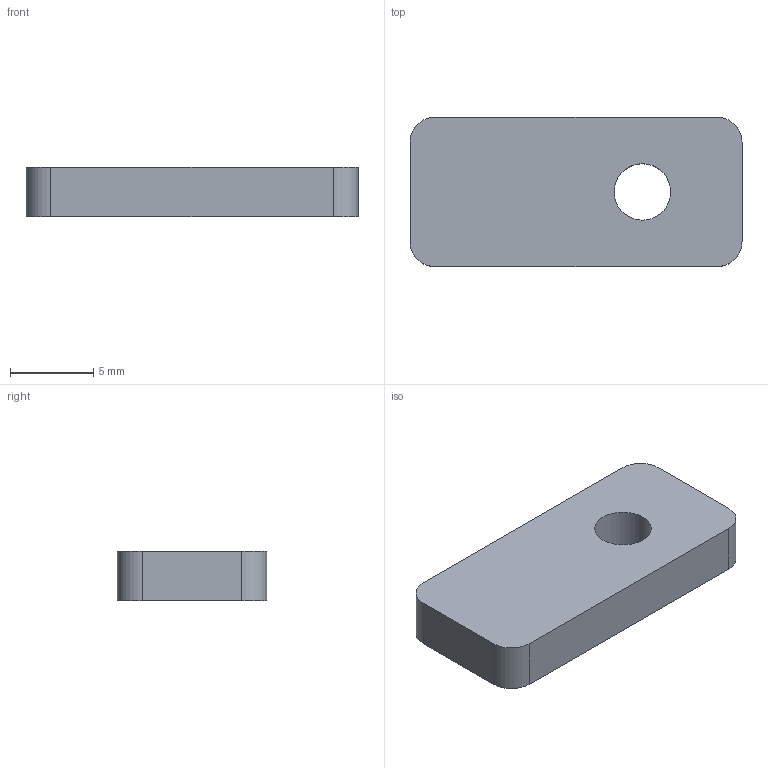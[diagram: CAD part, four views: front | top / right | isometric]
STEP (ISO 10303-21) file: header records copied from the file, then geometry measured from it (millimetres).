
FILE_DESCRIPTION(('Open CASCADE Model'),'2;1');
FILE_NAME('Open CASCADE Shape Model','2026-10-27T02:12:01',('Author'),( 'Open CASCADE'),'Open CASCADE STEP processor 7.9','Open CASCADE 7.9' ,'Unknown');
FILE_SCHEMA(('AUTOMOTIVE_DESIGN { 1 0 10303 214 1 1 1 1 }'));
Length unit declared in the file: millimetre
Products named in the file (1): Open CASCADE STEP translator 7.9 2
Bounding box: 20 x 9 x 3 mm (x, y, z)
Volume: 507 mm3; surface area: 536.3 mm2
Topology: 1 solids, 1 shells, 11 faces, 27 edges, 18 vertices
Faces by surface type: plane 6, cylinder 5
Full cylindrical faces by diameter (mm): 3.4 x1
Entity records: 714 total; most frequent: CARTESIAN_POINT 147, DIRECTION 109, LINE 61, VECTOR 61, ORIENTED_EDGE 54, PCURVE 54, DEFINITIONAL_REPRESENTATION 54, EDGE_CURVE 27
